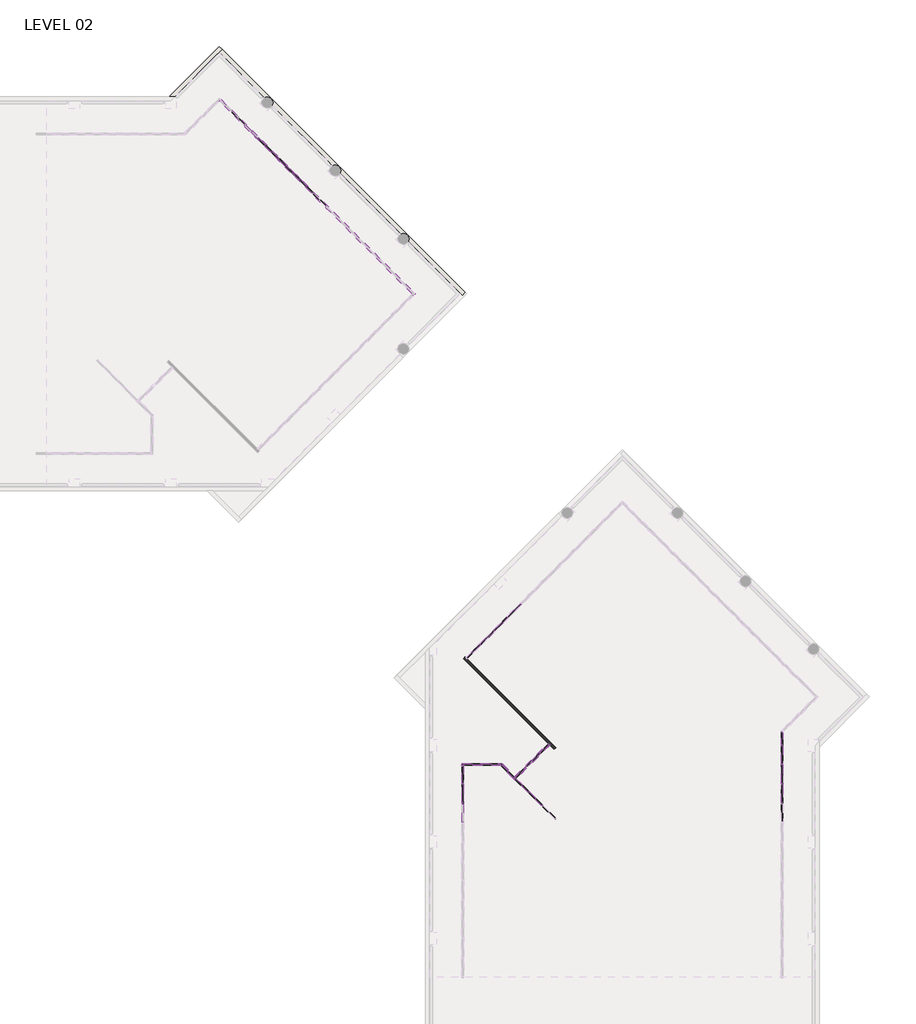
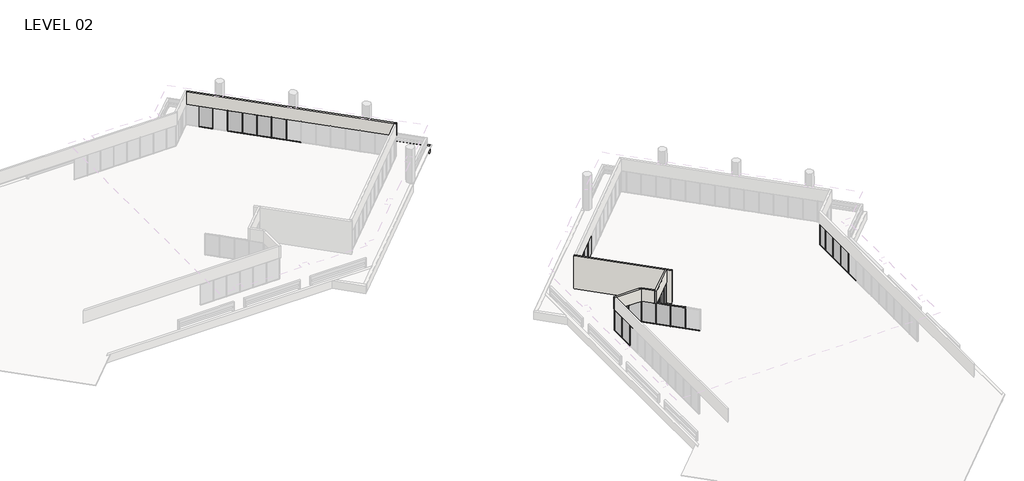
# One storey, part 16 of 19: 79 members, 23 plates, 7 walls, 1 door.
"""IFC4 building model written with IfcOpenShell, lengths in millimetres."""

from ifc_helpers import new_model, si_unit, frame, origin, place, context, project, spatial, polyline, outline, extrude, faceted_brep, transform, mapped, element, save
from components import curtain_wall_dbl_glass_curtain_wall_dbl_glass_ad4eb2cc, member_5247f267, member_e44af9ab, member_c23f844a, member_ed5eb8ce, member_800970d4, member_cca1f9e6, member_ccf7f6e3, member_67d17f7f, member_d5560c68, member_35eb671e, member_74c9df78, plate_67294edd, plate_50b9cd61, plate_ce959b8d, plate_5a14c350, plate_4fb64caf, plate_748a28b9, plate_e3fa2cc7

model = new_model("IFC4")

# Units and contexts
model_context = context("Model", 3, world=origin())
ifc_project = project(units=[si_unit("LENGTHUNIT", "METRE", prefix="MILLI")], contexts=[model_context])

# Site, building, storey
site = spatial("IfcSite", under=ifc_project)
building = spatial("IfcBuilding", under=site)
storey = spatial("IfcBuildingStorey", under=building, Name="LEVEL 02", Elevation=4140.2)

# Door
placement = place(None, origin())
curtain_wall_dbl_glass_curtain_wall_dbl_glass_shape = curtain_wall_dbl_glass_curtain_wall_dbl_glass_ad4eb2cc(model_context)
element("IfcDoor", 1, ObjectType="Curtain Wall Dbl Glass : Curtain Wall Dbl Glass", at=placement, inside=storey, context=model_context, shape_type="MappedRepresentation", body=[
    mapped(curtain_wall_dbl_glass_curtain_wall_dbl_glass_shape, transform((69420.6051367, 67386.6765398, 4140.2), x_axis=(0.7071067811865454, 0.7071067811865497, 0.0), y_axis=(-0.7071067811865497, 0.7071067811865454, 0.0), z_axis=(0.0, 0.0, 1.0))),
])

# Members
member_shape = member_5247f267(model_context)
element("IfcMember", 2, ObjectType="Rectangular Mullion : 2\" x 4.5\" rectangular", at=placement, inside=storey, context=model_context, shape_type="MappedRepresentation", body=[
    mapped(member_shape, transform((46014.06548, 118925.8423275, 4140.2), x_axis=(0.0, 0.0, -1.0), y_axis=(-0.7071067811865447, -0.7071067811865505, 0.0), z_axis=(-0.7071067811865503, 0.7071067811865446, 0.0))),
])
element("IfcMember", 3, ObjectType="Rectangular Mullion : 2\" x 4.5\" rectangular", at=placement, inside=storey, context=model_context, shape_type="MappedRepresentation", body=[
    mapped(member_shape, transform((52449.9132635, 112489.994544, 4140.2), x_axis=(0.0, 0.0, -1.0), y_axis=(-0.7071067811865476, -0.7071067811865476, 0.0), z_axis=(-0.7071067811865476, 0.7071067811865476, 0.0))),
])
member_2_shape = member_e44af9ab(model_context)
element("IfcMember", 4, ObjectType="Rectangular Mullion : 2\" x 4.5\" rectangular", at=placement, inside=storey, context=model_context, shape_type="MappedRepresentation", body=[
    mapped(member_2_shape, transform((48145.3791121, 116794.5286954, 4140.2), x_axis=(0.7071067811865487, -0.7071067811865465, 0.0), y_axis=(-0.7071067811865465, -0.7071067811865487, 0.0), z_axis=(0.0, 0.0, -1.0))),
])
element("IfcMember", 5, ObjectType="Rectangular Mullion : 2\" x 4.5\" rectangular", at=placement, inside=storey, context=model_context, shape_type="MappedRepresentation", body=[
    mapped(member_2_shape, transform((49217.0225219, 115722.8852856, 4140.2), x_axis=(0.7071067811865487, -0.7071067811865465, 0.0), y_axis=(-0.7071067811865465, -0.7071067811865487, 0.0), z_axis=(0.0, 0.0, -1.0))),
])
element("IfcMember", 6, ObjectType="Rectangular Mullion : 2\" x 4.5\" rectangular", at=placement, inside=storey, context=model_context, shape_type="MappedRepresentation", body=[
    mapped(member_2_shape, transform((50288.6659317, 114651.2418758, 4140.2), x_axis=(0.7071067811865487, -0.7071067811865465, 0.0), y_axis=(-0.7071067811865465, -0.7071067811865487, 0.0), z_axis=(0.0, 0.0, -1.0))),
])
element("IfcMember", 7, ObjectType="Rectangular Mullion : 2\" x 4.5\" rectangular", at=placement, inside=storey, context=model_context, shape_type="MappedRepresentation", body=[
    mapped(member_2_shape, transform((51360.3093415, 113579.598466, 4140.2), x_axis=(0.7071067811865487, -0.7071067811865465, 0.0), y_axis=(-0.7071067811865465, -0.7071067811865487, 0.0), z_axis=(0.0, 0.0, -1.0))),
])
element("IfcMember", 8, ObjectType="Rectangular Mullion : 2\" x 4.5\" rectangular", at=placement, inside=storey, context=model_context, shape_type="MappedRepresentation", body=[
    mapped(member_2_shape, transform((52431.9527513, 112507.9550562, 4140.2), x_axis=(0.7071067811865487, -0.7071067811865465, 0.0), y_axis=(-0.7071067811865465, -0.7071067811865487, 0.0), z_axis=(0.0, 0.0, -1.0))),
])
member_3_shape = member_c23f844a(model_context)
element("IfcMember", 9, ObjectType="Rectangular Mullion : 2\" x 4.5\" rectangular", at=placement, inside=storey, context=model_context, shape_type="MappedRepresentation", body=[
    mapped(member_3_shape, transform((48127.4185999, 116812.4892076, 6731.0), x_axis=(0.0, 0.0, 1.0), y_axis=(-0.7071067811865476, -0.7071067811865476, 0.0), z_axis=(0.7071067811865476, -0.7071067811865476, 0.0))),
])
element("IfcMember", 10, ObjectType="Rectangular Mullion : 2\" x 4.5\" rectangular", at=placement, inside=storey, context=model_context, shape_type="MappedRepresentation", body=[
    mapped(member_3_shape, transform((49199.0620097, 115740.8457978, 6731.0), x_axis=(0.0, 0.0, 1.0), y_axis=(-0.7071067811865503, -0.7071067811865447, 0.0), z_axis=(0.7071067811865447, -0.7071067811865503, 0.0))),
])
element("IfcMember", 11, ObjectType="Rectangular Mullion : 2\" x 4.5\" rectangular", at=placement, inside=storey, context=model_context, shape_type="MappedRepresentation", body=[
    mapped(member_3_shape, transform((50270.7054195, 114669.2023881, 6731.0), x_axis=(0.0, 0.0, 1.0), y_axis=(-0.7071067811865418, -0.7071067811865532, 0.0), z_axis=(0.7071067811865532, -0.7071067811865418, 0.0))),
])
element("IfcMember", 12, ObjectType="Rectangular Mullion : 2\" x 4.5\" rectangular", at=placement, inside=storey, context=model_context, shape_type="MappedRepresentation", body=[
    mapped(member_3_shape, transform((51342.3488293, 113597.5589783, 6731.0), x_axis=(0.0, 0.0, 1.0), y_axis=(-0.7071067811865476, -0.7071067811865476, 0.0), z_axis=(0.7071067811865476, -0.7071067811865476, 0.0))),
])
element("IfcMember", 13, ObjectType="Rectangular Mullion : 2\" x 4.5\" rectangular", at=placement, inside=storey, context=model_context, shape_type="MappedRepresentation", body=[
    mapped(member_3_shape, transform((52413.9922391, 112525.9155685, 6731.0), x_axis=(0.0, 0.0, 1.0), y_axis=(-0.7071067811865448, -0.7071067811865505, 0.0), z_axis=(0.7071067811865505, -0.7071067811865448, 0.0))),
])
element("IfcMember", 14, ObjectType="Rectangular Mullion : 2\" x 4.5\" rectangular", at=placement, inside=storey, context=model_context, shape_type="MappedRepresentation", body=[
    mapped(member_3_shape, transform((48163.3396244, 116776.5681832, 4140.2), x_axis=(0.0, 0.0, -1.0), y_axis=(-0.7071067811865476, -0.7071067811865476, 0.0), z_axis=(-0.7071067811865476, 0.7071067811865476, 0.0))),
])
element("IfcMember", 15, ObjectType="Rectangular Mullion : 2\" x 4.5\" rectangular", at=placement, inside=storey, context=model_context, shape_type="MappedRepresentation", body=[
    mapped(member_3_shape, transform((49234.9830342, 115704.9247734, 4140.2), x_axis=(0.0, 0.0, -1.0), y_axis=(-0.7071067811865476, -0.7071067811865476, 0.0), z_axis=(-0.7071067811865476, 0.7071067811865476, 0.0))),
])
element("IfcMember", 16, ObjectType="Rectangular Mullion : 2\" x 4.5\" rectangular", at=placement, inside=storey, context=model_context, shape_type="MappedRepresentation", body=[
    mapped(member_3_shape, transform((50306.626444, 114633.2813636, 4140.2), x_axis=(0.0, 0.0, -1.0), y_axis=(-0.7071067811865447, -0.7071067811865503, 0.0), z_axis=(-0.7071067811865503, 0.7071067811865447, 0.0))),
])
element("IfcMember", 17, ObjectType="Rectangular Mullion : 2\" x 4.5\" rectangular", at=placement, inside=storey, context=model_context, shape_type="MappedRepresentation", body=[
    mapped(member_3_shape, transform((51378.2698538, 113561.6379538, 4140.2), x_axis=(0.0, 0.0, -1.0), y_axis=(-0.7071067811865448, -0.7071067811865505, 0.0), z_axis=(-0.7071067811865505, 0.7071067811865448, 0.0))),
])
member_4_shape = member_ed5eb8ce(model_context)
element("IfcMember", 18, ObjectType="Rectangular Mullion : 2\" x 4.5\" rectangular", at=placement, inside=storey, context=model_context, shape_type="MappedRepresentation", body=[
    mapped(member_4_shape, transform((89445.0847164, 68973.3675885, 6731.0), x_axis=(0.0, 0.0, 1.0), y_axis=(-1.0, 0.0, 0.0), z_axis=(0.0, -1.0, 0.0))),
])
element("IfcMember", 19, ObjectType="Rectangular Mullion : 2\" x 4.5\" rectangular", at=placement, inside=storey, context=model_context, shape_type="MappedRepresentation", body=[
    mapped(member_shape, transform((89445.0847164, 67449.3675885, 6731.0), x_axis=(0.0, 0.0, 1.0), y_axis=(-1.0, 0.0, 0.0), z_axis=(0.0, -1.0, 0.0))),
])
element("IfcMember", 20, ObjectType="Rectangular Mullion : 2\" x 4.5\" rectangular", at=placement, inside=storey, context=model_context, shape_type="MappedRepresentation", body=[
    mapped(member_shape, transform((66746.3763443, 77986.564719, 6731.0), x_axis=(0.0, 0.0, 1.0), y_axis=(-0.7071067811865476, 0.7071067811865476, 0.0), z_axis=(-0.7071067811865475, -0.7071067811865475, 0.0))),
])
element("IfcMember", 21, ObjectType="Rectangular Mullion : 2\" x 4.5\" rectangular", at=placement, inside=storey, context=model_context, shape_type="MappedRepresentation", body=[
    mapped(member_shape, transform((89445.0847164, 65925.3675885, 6731.0), x_axis=(0.0, 0.0, 1.0), y_axis=(-1.0, 0.0, 0.0), z_axis=(0.0, -1.0, 0.0))),
])
element("IfcMember", 22, ObjectType="Rectangular Mullion : 2\" x 4.5\" rectangular", at=placement, inside=storey, context=model_context, shape_type="MappedRepresentation", body=[
    mapped(member_shape, transform((89445.0847164, 64401.3675885, 6731.0), x_axis=(0.0, 0.0, 1.0), y_axis=(-1.0, 0.0, 0.0), z_axis=(0.0, -1.0, 0.0))),
])
element("IfcMember", 23, ObjectType="Rectangular Mullion : 2\" x 4.5\" rectangular", at=placement, inside=storey, context=model_context, shape_type="MappedRepresentation", body=[
    mapped(member_shape, transform((67824.0070788, 79064.1954535, 6731.0), x_axis=(0.0, 0.0, 1.0), y_axis=(-0.7071067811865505, 0.7071067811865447, 0.0), z_axis=(-0.7071067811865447, -0.7071067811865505, 0.0))),
])
element("IfcMember", 24, ObjectType="Rectangular Mullion : 2\" x 4.5\" rectangular", at=placement, inside=storey, context=model_context, shape_type="MappedRepresentation", body=[
    mapped(member_shape, transform((65668.7456097, 76908.9339845, 6731.0), x_axis=(0.0, 0.0, 1.0), y_axis=(-0.7071067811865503, 0.7071067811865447, 0.0), z_axis=(-0.7071067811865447, -0.7071067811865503, 0.0))),
])
element("IfcMember", 25, ObjectType="Rectangular Mullion : 2\" x 4.5\" rectangular", at=placement, inside=storey, context=model_context, shape_type="MappedRepresentation", body=[
    mapped(member_shape, transform((64254.6347164, 65874.5675885, 6731.0), x_axis=(0.0, 0.0, 1.0), y_axis=(1.0, 0.0, 0.0), z_axis=(0.0, 1.0, 0.0))),
])
element("IfcMember", 26, ObjectType="Rectangular Mullion : 2\" x 4.5\" rectangular", at=placement, inside=storey, context=model_context, shape_type="MappedRepresentation", body=[
    mapped(member_shape, transform((64254.6347164, 64350.5675885, 6731.0), x_axis=(0.0, 0.0, 1.0), y_axis=(1.0, 0.0, 0.0), z_axis=(0.0, 1.0, 0.0))),
])
element("IfcMember", 27, ObjectType="Rectangular Mullion : 2\" x 4.5\" rectangular", at=placement, inside=storey, context=model_context, shape_type="MappedRepresentation", body=[
    mapped(member_shape, transform((70517.5664077, 64209.0358972, 6731.0), x_axis=(0.0, 0.0, 1.0), y_axis=(-0.7071067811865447, -0.7071067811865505, 0.0), z_axis=(0.7071067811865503, -0.7071067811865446, 0.0))),
])
element("IfcMember", 28, ObjectType="Rectangular Mullion : 2\" x 4.5\" rectangular", at=placement, inside=storey, context=model_context, shape_type="MappedRepresentation", body=[
    mapped(member_shape, transform((69439.9356732, 65286.6666317, 6731.0), x_axis=(0.0, 0.0, 1.0), y_axis=(-0.7071067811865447, -0.7071067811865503, 0.0), z_axis=(0.7071067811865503, -0.7071067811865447, 0.0))),
])
element("IfcMember", 29, ObjectType="Rectangular Mullion : 2\" x 4.5\" rectangular", at=placement, inside=storey, context=model_context, shape_type="MappedRepresentation", body=[
    mapped(member_4_shape, transform((89445.0847164, 69970.3120859, 4140.2), x_axis=(0.0, 0.0, -1.0), y_axis=(-1.0, 0.0, 0.0), z_axis=(0.0, 1.0, 0.0))),
])
element("IfcMember", 30, ObjectType="Rectangular Mullion : 2\" x 4.5\" rectangular", at=placement, inside=storey, context=model_context, shape_type="MappedRepresentation", body=[
    mapped(member_shape, transform((89445.0847164, 68922.5675885, 4140.2), x_axis=(0.0, 0.0, -1.0), y_axis=(-1.0, 0.0, 0.0), z_axis=(0.0, 1.0, 0.0))),
])
element("IfcMember", 31, ObjectType="Rectangular Mullion : 2\" x 4.5\" rectangular", at=placement, inside=storey, context=model_context, shape_type="MappedRepresentation", body=[
    mapped(member_shape, transform((89445.0847164, 67398.5675885, 4140.2), x_axis=(0.0, 0.0, -1.0), y_axis=(-1.0, 0.0, 0.0), z_axis=(0.0, 1.0, 0.0))),
])
element("IfcMember", 32, ObjectType="Rectangular Mullion : 2\" x 4.5\" rectangular", at=placement, inside=storey, context=model_context, shape_type="MappedRepresentation", body=[
    mapped(member_shape, transform((66710.4553198, 77950.6436945, 4140.2), x_axis=(0.0, 0.0, -1.0), y_axis=(-0.7071067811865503, 0.7071067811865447, 0.0), z_axis=(0.7071067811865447, 0.7071067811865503, 0.0))),
])
element("IfcMember", 33, ObjectType="Rectangular Mullion : 2\" x 4.5\" rectangular", at=placement, inside=storey, context=model_context, shape_type="MappedRepresentation", body=[
    mapped(member_shape, transform((89445.0847164, 65874.5675885, 4140.2), x_axis=(0.0, 0.0, -1.0), y_axis=(-1.0, 0.0, 0.0), z_axis=(0.0, 1.0, 0.0))),
])
element("IfcMember", 34, ObjectType="Rectangular Mullion : 2\" x 4.5\" rectangular", at=placement, inside=storey, context=model_context, shape_type="MappedRepresentation", body=[
    mapped(member_shape, transform((89445.0847164, 64350.5675885, 4140.2), x_axis=(0.0, 0.0, -1.0), y_axis=(-1.0, 0.0, 0.0), z_axis=(0.0, 1.0, 0.0))),
])
element("IfcMember", 35, ObjectType="Rectangular Mullion : 2\" x 4.5\" rectangular", at=placement, inside=storey, context=model_context, shape_type="MappedRepresentation", body=[
    mapped(member_shape, transform((67788.0860543, 79028.274429, 4140.2), x_axis=(0.0, 0.0, -1.0), y_axis=(-0.7071067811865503, 0.7071067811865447, 0.0), z_axis=(0.7071067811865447, 0.7071067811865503, 0.0))),
])
element("IfcMember", 36, ObjectType="Rectangular Mullion : 2\" x 4.5\" rectangular", at=placement, inside=storey, context=model_context, shape_type="MappedRepresentation", body=[
    mapped(member_shape, transform((64254.6347164, 64401.3675885, 4140.2), x_axis=(0.0, 0.0, -1.0), y_axis=(1.0, 0.0, 0.0), z_axis=(0.0, -1.0, 0.0))),
])
element("IfcMember", 37, ObjectType="Rectangular Mullion : 2\" x 4.5\" rectangular", at=placement, inside=storey, context=model_context, shape_type="MappedRepresentation", body=[
    mapped(member_shape, transform((68398.2259632, 66328.3763418, 4140.2), x_axis=(0.0, 0.0, -1.0), y_axis=(-0.7071067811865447, -0.7071067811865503, 0.0), z_axis=(-0.7071067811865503, 0.7071067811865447, 0.0))),
])
element("IfcMember", 38, ObjectType="Rectangular Mullion : 2\" x 4.5\" rectangular", at=placement, inside=storey, context=model_context, shape_type="MappedRepresentation", body=[
    mapped(member_shape, transform((69475.8566977, 65250.7456072, 4140.2), x_axis=(0.0, 0.0, -1.0), y_axis=(-0.7071067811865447, -0.7071067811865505, 0.0), z_axis=(-0.7071067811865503, 0.7071067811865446, 0.0))),
])
element("IfcMember", 39, ObjectType="Rectangular Mullion : 2\" x 4.5\" rectangular", at=placement, inside=storey, context=model_context, shape_type="MappedRepresentation", body=[
    mapped(member_2_shape, transform((89445.0847164, 68947.9675885, 4140.2), x_axis=(0.0, -1.0, 0.0), y_axis=(-1.0, 0.0, 0.0), z_axis=(0.0, 0.0, -1.0))),
])
element("IfcMember", 40, ObjectType="Rectangular Mullion : 2\" x 4.5\" rectangular", at=placement, inside=storey, context=model_context, shape_type="MappedRepresentation", body=[
    mapped(member_2_shape, transform((89445.0847164, 67423.9675885, 4140.2), x_axis=(0.0, -1.0, 0.0), y_axis=(-1.0, 0.0, 0.0), z_axis=(0.0, 0.0, -1.0))),
])
element("IfcMember", 41, ObjectType="Rectangular Mullion : 2\" x 4.5\" rectangular", at=placement, inside=storey, context=model_context, shape_type="MappedRepresentation", body=[
    mapped(member_2_shape, transform((66728.415832, 77968.6042068, 4140.2), x_axis=(-0.7071067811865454, -0.7071067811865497, 0.0), y_axis=(-0.7071067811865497, 0.7071067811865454, 0.0), z_axis=(0.0, 0.0, -1.0))),
])
element("IfcMember", 42, ObjectType="Rectangular Mullion : 2\" x 4.5\" rectangular", at=placement, inside=storey, context=model_context, shape_type="MappedRepresentation", body=[
    mapped(member_2_shape, transform((89445.0847164, 65899.9675885, 4140.2), x_axis=(0.0, -1.0, 0.0), y_axis=(-1.0, 0.0, 0.0), z_axis=(0.0, 0.0, -1.0))),
])
element("IfcMember", 43, ObjectType="Rectangular Mullion : 2\" x 4.5\" rectangular", at=placement, inside=storey, context=model_context, shape_type="MappedRepresentation", body=[
    mapped(member_2_shape, transform((89445.0847164, 64375.9675885, 4140.2), x_axis=(0.0, -1.0, 0.0), y_axis=(-1.0, 0.0, 0.0), z_axis=(0.0, 0.0, -1.0))),
])
element("IfcMember", 44, ObjectType="Rectangular Mullion : 2\" x 4.5\" rectangular", at=placement, inside=storey, context=model_context, shape_type="MappedRepresentation", body=[
    mapped(member_2_shape, transform((67806.0465666, 79046.2349413, 4140.2), x_axis=(-0.7071067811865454, -0.7071067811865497, 0.0), y_axis=(-0.7071067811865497, 0.7071067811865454, 0.0), z_axis=(0.0, 0.0, -1.0))),
])
element("IfcMember", 45, ObjectType="Rectangular Mullion : 2\" x 4.5\" rectangular", at=placement, inside=storey, context=model_context, shape_type="MappedRepresentation", body=[
    mapped(member_2_shape, transform((65650.7850975, 76890.9734722, 4140.2), x_axis=(-0.7071067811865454, -0.7071067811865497, 0.0), y_axis=(-0.7071067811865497, 0.7071067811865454, 0.0), z_axis=(0.0, 0.0, -1.0))),
])
element("IfcMember", 46, ObjectType="Rectangular Mullion : 2\" x 4.5\" rectangular", at=placement, inside=storey, context=model_context, shape_type="MappedRepresentation", body=[
    mapped(member_2_shape, transform((64254.6347164, 65899.9675885, 4140.2), x_axis=(0.0, 1.0, 0.0), y_axis=(1.0, 0.0, 0.0), z_axis=(0.0, 0.0, -1.0))),
])
element("IfcMember", 47, ObjectType="Rectangular Mullion : 2\" x 4.5\" rectangular", at=placement, inside=storey, context=model_context, shape_type="MappedRepresentation", body=[
    mapped(member_2_shape, transform((64254.6347164, 64375.9675885, 4140.2), x_axis=(0.0, 1.0, 0.0), y_axis=(1.0, 0.0, 0.0), z_axis=(0.0, 0.0, -1.0))),
])
element("IfcMember", 48, ObjectType="Rectangular Mullion : 2\" x 4.5\" rectangular", at=placement, inside=storey, context=model_context, shape_type="MappedRepresentation", body=[
    mapped(member_2_shape, transform((65778.6347164, 67423.9675885, 4140.2), x_axis=(1.0, 0.0, 0.0), y_axis=(0.0, -1.0, 0.0), z_axis=(0.0, 0.0, -1.0))),
])
element("IfcMember", 49, ObjectType="Rectangular Mullion : 2\" x 4.5\" rectangular", at=placement, inside=storey, context=model_context, shape_type="MappedRepresentation", body=[
    mapped(member_2_shape, transform((68380.2654509, 66346.336854, 4140.2), x_axis=(0.7071067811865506, -0.7071067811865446, 0.0), y_axis=(-0.7071067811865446, -0.7071067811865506, 0.0), z_axis=(0.0, 0.0, -1.0))),
])
element("IfcMember", 50, ObjectType="Rectangular Mullion : 2\" x 4.5\" rectangular", at=placement, inside=storey, context=model_context, shape_type="MappedRepresentation", body=[
    mapped(member_2_shape, transform((70535.52692, 64191.0753849, 4140.2), x_axis=(0.7071067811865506, -0.7071067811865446, 0.0), y_axis=(-0.7071067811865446, -0.7071067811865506, 0.0), z_axis=(0.0, 0.0, -1.0))),
])
element("IfcMember", 51, ObjectType="Rectangular Mullion : 2\" x 4.5\" rectangular", at=placement, inside=storey, context=model_context, shape_type="MappedRepresentation", body=[
    mapped(member_2_shape, transform((69457.8961855, 65268.7061195, 4140.2), x_axis=(0.7071067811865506, -0.7071067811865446, 0.0), y_axis=(-0.7071067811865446, -0.7071067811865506, 0.0), z_axis=(0.0, 0.0, -1.0))),
])
element("IfcMember", 52, ObjectType="Rectangular Mullion : 2\" x 4.5\" rectangular", at=placement, inside=storey, context=model_context, shape_type="MappedRepresentation", body=[
    mapped(member_2_shape, transform((69097.6075963, 67063.6789994, 4140.2), x_axis=(0.7071067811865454, 0.7071067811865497, 0.0), y_axis=(0.7071067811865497, -0.7071067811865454, 0.0), z_axis=(0.0, 0.0, -1.0))),
])
element("IfcMember", 53, ObjectType="Rectangular Mullion : 2\" x 4.5\" rectangular", at=placement, inside=storey, context=model_context, shape_type="MappedRepresentation", body=[
    mapped(member_2_shape, transform((70390.7644778, 68356.8358808, 4140.2), x_axis=(0.7071067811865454, 0.7071067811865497, 0.0), y_axis=(0.7071067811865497, -0.7071067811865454, 0.0), z_axis=(0.0, 0.0, -1.0))),
])
member_5_shape = member_800970d4(model_context)
element("IfcMember", 54, ObjectType="Rectangular Mullion : 2\" x 4.5\" rectangular", at=placement, inside=storey, context=model_context, shape_type="MappedRepresentation", body=[
    mapped(member_5_shape, transform((64573.154363, 75813.3427377, 4140.2), x_axis=(-0.7071067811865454, -0.7071067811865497, 0.0), y_axis=(-0.7071067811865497, 0.7071067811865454, 0.0), z_axis=(0.0, 0.0, -1.0))),
])
element("IfcMember", 55, ObjectType="Rectangular Mullion : 2\" x 4.5\" rectangular", at=placement, inside=storey, context=model_context, shape_type="MappedRepresentation", body=[
    mapped(member_5_shape, transform((64254.6347164, 67423.9675885, 4140.2), x_axis=(0.0, 1.0, 0.0), y_axis=(1.0, 0.0, 0.0), z_axis=(0.0, 0.0, -1.0))),
])
element("IfcMember", 56, ObjectType="Rectangular Mullion : 2\" x 4.5\" rectangular", at=placement, inside=storey, context=model_context, shape_type="MappedRepresentation", body=[
    mapped(member_5_shape, transform((67302.6347164, 67423.9675885, 4140.2), x_axis=(1.0, 0.0, 0.0), y_axis=(0.0, -1.0, 0.0), z_axis=(0.0, 0.0, -1.0))),
])
element("IfcMember", 57, ObjectType="Rectangular Mullion : 2\" x 4.5\" rectangular", at=placement, inside=storey, context=model_context, shape_type="MappedRepresentation", body=[
    mapped(member_5_shape, transform((71066.5287509, 69032.6001539, 4140.2), x_axis=(0.7071067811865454, 0.7071067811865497, 0.0), y_axis=(0.7071067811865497, -0.7071067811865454, 0.0), z_axis=(0.0, 0.0, -1.0))),
])
element("IfcMember", 58, ObjectType="Rectangular Mullion : 2\" x 4.5\" rectangular", at=placement, inside=storey, context=model_context, shape_type="MappedRepresentation", body=[
    mapped(member_5_shape, transform((89445.0847164, 70021.1120859, 6731.0), x_axis=(0.0, 1.0, 0.0), y_axis=(-1.0, 0.0, 0.0), z_axis=(0.0, 0.0, 1.0))),
])
element("IfcMember", 59, ObjectType="Rectangular Mullion : 2\" x 4.5\" rectangular", at=placement, inside=storey, context=model_context, shape_type="MappedRepresentation", body=[
    mapped(member_5_shape, transform((64254.6347164, 67423.9675885, 6731.0), x_axis=(-1.0, 0.0, 0.0), y_axis=(0.0, -1.0, 0.0), z_axis=(0.0, 0.0, 1.0))),
])
element("IfcMember", 60, ObjectType="Rectangular Mullion : 2\" x 4.5\" rectangular", at=placement, inside=storey, context=model_context, shape_type="MappedRepresentation", body=[
    mapped(member_5_shape, transform((67302.6347164, 67423.9675885, 6731.0), x_axis=(-0.7071067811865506, 0.7071067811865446, 0.0), y_axis=(-0.7071067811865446, -0.7071067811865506, 0.0), z_axis=(0.0, 0.0, 1.0))),
])
element("IfcMember", 61, ObjectType="Rectangular Mullion : 2\" x 4.5\" rectangular", at=placement, inside=storey, context=model_context, shape_type="MappedRepresentation", body=[
    mapped(member_5_shape, transform((68420.6766035, 66386.7480065, 6731.0), x_axis=(-0.7071067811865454, -0.7071067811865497, 0.0), y_axis=(0.7071067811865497, -0.7071067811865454, 0.0), z_axis=(0.0, 0.0, 1.0))),
])
member_6_shape = member_cca1f9e6(model_context)
element("IfcMember", 62, ObjectType="Rectangular Mullion : 2\" x 4.5\" rectangular", at=placement, inside=storey, context=model_context, shape_type="MappedRepresentation", body=[
    mapped(member_6_shape, transform((64609.0753875, 75849.2637622, 6731.0), x_axis=(0.0, 0.0, 1.0), y_axis=(-0.7071067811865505, 0.7071067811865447, 0.0), z_axis=(-0.7071067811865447, -0.7071067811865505, 0.0))),
])
element("IfcMember", 63, ObjectType="Rectangular Mullion : 2\" x 4.5\" rectangular", at=placement, inside=storey, context=model_context, shape_type="MappedRepresentation", body=[
    mapped(member_6_shape, transform((64254.6347164, 67373.1675885, 6731.0), x_axis=(0.0, 0.0, 1.0), y_axis=(1.0, 0.0, 0.0), z_axis=(0.0, 1.0, 0.0))),
])
element("IfcMember", 64, ObjectType="Rectangular Mullion : 2\" x 4.5\" rectangular", at=placement, inside=storey, context=model_context, shape_type="MappedRepresentation", body=[
    mapped(member_6_shape, transform((67251.8347164, 67423.9675885, 6731.0), x_axis=(0.0, 0.0, 1.0), y_axis=(0.0, -1.0, 0.0), z_axis=(1.0, 0.0, 0.0))),
])
element("IfcMember", 65, ObjectType="Rectangular Mullion : 2\" x 4.5\" rectangular", at=placement, inside=storey, context=model_context, shape_type="MappedRepresentation", body=[
    mapped(member_6_shape, transform((65753.2347164, 67423.9675885, 6731.0), x_axis=(0.0, 0.0, 1.0), y_axis=(0.0, -1.0, 0.0), z_axis=(1.0, 0.0, 0.0))),
])
element("IfcMember", 66, ObjectType="Rectangular Mullion : 2\" x 4.5\" rectangular", at=placement, inside=storey, context=model_context, shape_type="MappedRepresentation", body=[
    mapped(member_6_shape, transform((68362.3049387, 66364.2973662, 6731.0), x_axis=(0.0, 0.0, 1.0), y_axis=(-0.7071067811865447, -0.7071067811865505, 0.0), z_axis=(0.7071067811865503, -0.7071067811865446, 0.0))),
])
member_7_shape = member_ccf7f6e3(model_context)
element("IfcMember", 67, ObjectType="Rectangular Mullion : 2\" x 4.5\" rectangular", at=placement, inside=storey, context=model_context, shape_type="MappedRepresentation", body=[
    mapped(member_7_shape, transform((65632.8245853, 76873.01296, 4140.2), x_axis=(0.0, 0.0, -1.0), y_axis=(-0.7071067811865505, 0.7071067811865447, 0.0), z_axis=(0.7071067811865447, 0.7071067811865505, 0.0))),
])
element("IfcMember", 68, ObjectType="Rectangular Mullion : 2\" x 4.5\" rectangular", at=placement, inside=storey, context=model_context, shape_type="MappedRepresentation", body=[
    mapped(member_7_shape, transform((64305.4347164, 67423.9675885, 4140.2), x_axis=(0.0, 0.0, -1.0), y_axis=(0.0, -1.0, 0.0), z_axis=(-1.0, 0.0, 0.0))),
])
element("IfcMember", 69, ObjectType="Rectangular Mullion : 2\" x 4.5\" rectangular", at=placement, inside=storey, context=model_context, shape_type="MappedRepresentation", body=[
    mapped(member_7_shape, transform((64254.6347164, 65925.3675885, 4140.2), x_axis=(0.0, 0.0, -1.0), y_axis=(1.0, 0.0, 0.0), z_axis=(0.0, -1.0, 0.0))),
])
element("IfcMember", 70, ObjectType="Rectangular Mullion : 2\" x 4.5\" rectangular", at=placement, inside=storey, context=model_context, shape_type="MappedRepresentation", body=[
    mapped(member_7_shape, transform((65804.0347164, 67423.9675885, 4140.2), x_axis=(0.0, 0.0, -1.0), y_axis=(0.0, -1.0, 0.0), z_axis=(-1.0, 0.0, 0.0))),
])
element("IfcMember", 71, ObjectType="Rectangular Mullion : 2\" x 4.5\" rectangular", at=placement, inside=storey, context=model_context, shape_type="MappedRepresentation", body=[
    mapped(member_7_shape, transform((67338.5557409, 67388.046564, 4140.2), x_axis=(0.0, 0.0, -1.0), y_axis=(-0.7071067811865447, -0.7071067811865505, 0.0), z_axis=(-0.7071067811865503, 0.7071067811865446, 0.0))),
])
element("IfcMember", 72, ObjectType="Rectangular Mullion : 2\" x 4.5\" rectangular", at=placement, inside=storey, context=model_context, shape_type="MappedRepresentation", body=[
    mapped(member_7_shape, transform((70553.4874322, 64173.1148727, 4140.2), x_axis=(0.0, 0.0, -1.0), y_axis=(-0.7071067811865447, -0.7071067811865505, 0.0), z_axis=(-0.7071067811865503, 0.7071067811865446, 0.0))),
])
member_8_shape = member_67d17f7f(model_context)
element("IfcMember", 73, ObjectType="Rectangular Mullion : 2\" x 4.5\" rectangular", at=placement, inside=storey, context=model_context, shape_type="MappedRepresentation", body=[
    mapped(member_8_shape, transform((71030.6077264, 68996.6791294, 6731.0), x_axis=(0.0, 0.0, 1.0), y_axis=(0.7071067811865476, -0.7071067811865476, 0.0), z_axis=(0.7071067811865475, 0.7071067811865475, 0.0))),
])
member_9_shape = member_d5560c68(model_context)
element("IfcMember", 74, ObjectType="Rectangular Mullion : 2\" x 4.5\" rectangular", at=placement, inside=storey, context=model_context, shape_type="MappedRepresentation", body=[
    mapped(member_9_shape, transform((68456.597628, 66422.669031, 4140.2), x_axis=(0.0, 0.0, -1.0), y_axis=(0.707106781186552, -0.707106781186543, 0.0), z_axis=(-0.707106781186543, -0.707106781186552, 0.0))),
])
element("IfcMember", 75, ObjectType="Rectangular Mullion : 2\" x 4.5\" rectangular", at=placement, inside=storey, context=model_context, shape_type="MappedRepresentation", body=[
    mapped(member_9_shape, transform((69079.6470841, 67045.7184871, 6731.0), x_axis=(0.0, 0.0, 1.0), y_axis=(0.707106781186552, -0.707106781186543, 0.0), z_axis=(0.707106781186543, 0.707106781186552, 0.0))),
])
element("IfcMember", 76, ObjectType="Rectangular Mullion : 2\" x 4.5\" rectangular", at=placement, inside=storey, context=model_context, shape_type="MappedRepresentation", body=[
    mapped(member_8_shape, transform((70408.72499, 68374.7963931, 4140.2), x_axis=(0.0, 0.0, -1.0), y_axis=(0.7071067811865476, -0.7071067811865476, 0.0), z_axis=(-0.7071067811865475, -0.7071067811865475, 0.0))),
])
element("IfcMember", 77, ObjectType="Rectangular Mullion : 2\" x 4.5\" rectangular", at=placement, inside=storey, context=model_context, shape_type="MappedRepresentation", body=[
    mapped(member_2_shape, transform((69743.6026772, 67709.6740802, 4140.2), x_axis=(0.7071067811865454, 0.7071067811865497, 0.0), y_axis=(0.7071067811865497, -0.7071067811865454, 0.0), z_axis=(0.0, 0.0, -1.0))),
])
member_10_shape = member_35eb671e(model_context)
element("IfcMember", 78, ObjectType="Rectangular Mullion : 2\" x 4.5\" rectangular", at=placement, inside=storey, context=model_context, shape_type="MappedRepresentation", body=[
    mapped(member_10_shape, transform((70372.8039655, 68338.8753686, 6731.0), x_axis=(0.0, 0.0, 1.0), y_axis=(0.7071067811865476, -0.7071067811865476, 0.0), z_axis=(0.7071067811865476, 0.7071067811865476, 0.0))),
])
member_11_shape = member_74c9df78(model_context)
element("IfcMember", 79, ObjectType="Rectangular Mullion : 2\" x 4.5\" rectangular", at=placement, inside=storey, context=model_context, shape_type="MappedRepresentation", body=[
    mapped(member_11_shape, transform((69725.6421649, 67691.713568, 6731.0), x_axis=(0.0, 0.0, 1.0), y_axis=(0.7071067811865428, -0.7071067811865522, 0.0), z_axis=(0.7071067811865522, 0.7071067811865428, 0.0))),
])
element("IfcMember", 80, ObjectType="Rectangular Mullion : 2\" x 4.5\" rectangular", at=placement, inside=storey, context=model_context, shape_type="MappedRepresentation", body=[
    mapped(member_10_shape, transform((69761.5631894, 67727.6345925, 4140.2), x_axis=(0.0, 0.0, -1.0), y_axis=(0.7071067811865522, -0.7071067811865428, 0.0), z_axis=(-0.7071067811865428, -0.7071067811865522, 0.0))),
])

# Plates
plate_shape = plate_67294edd(model_context)
element("IfcPlate", 81, ObjectType="System Panel : 1/4\" Glass", at=placement, inside=storey, context=model_context, shape_type="MappedRepresentation", body=[
    mapped(plate_shape, transform((46534.9203351, 118404.9874725, 4191.0), x_axis=(0.7071067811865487, -0.7071067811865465, 0.0), y_axis=(0.7071067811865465, 0.7071067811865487, 0.0), z_axis=(0.0, 0.0, 1.0))),
])
plate_2_shape = plate_50b9cd61(model_context)
element("IfcPlate", 82, ObjectType="System Panel : 1/4\" Glass", at=placement, inside=storey, context=model_context, shape_type="MappedRepresentation", body=[
    mapped(plate_2_shape, transform((48681.200817, 116258.7069905, 4191.0), x_axis=(0.7071067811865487, -0.7071067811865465, 0.0), y_axis=(0.7071067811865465, 0.7071067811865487, 0.0), z_axis=(0.0, 0.0, 1.0))),
])
element("IfcPlate", 83, ObjectType="System Panel : 1/4\" Glass", at=placement, inside=storey, context=model_context, shape_type="MappedRepresentation", body=[
    mapped(plate_2_shape, transform((49752.8442268, 115187.0635807, 4191.0), x_axis=(0.7071067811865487, -0.7071067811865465, 0.0), y_axis=(0.7071067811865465, 0.7071067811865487, 0.0), z_axis=(0.0, 0.0, 1.0))),
])
element("IfcPlate", 84, ObjectType="System Panel : 1/4\" Glass", at=placement, inside=storey, context=model_context, shape_type="MappedRepresentation", body=[
    mapped(plate_2_shape, transform((50824.4876366, 114115.4201709, 4191.0), x_axis=(0.7071067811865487, -0.7071067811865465, 0.0), y_axis=(0.7071067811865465, 0.7071067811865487, 0.0), z_axis=(0.0, 0.0, 1.0))),
])
element("IfcPlate", 85, ObjectType="System Panel : 1/4\" Glass", at=placement, inside=storey, context=model_context, shape_type="MappedRepresentation", body=[
    mapped(plate_2_shape, transform((51896.1310464, 113043.7767611, 4191.0), x_axis=(0.7071067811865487, -0.7071067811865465, 0.0), y_axis=(0.7071067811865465, 0.7071067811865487, 0.0), z_axis=(0.0, 0.0, 1.0))),
])
plate_3_shape = plate_ce959b8d(model_context)
element("IfcPlate", 86, ObjectType="System Panel : 1/4\" Glass", at=placement, inside=storey, context=model_context, shape_type="MappedRepresentation", body=[
    mapped(plate_3_shape, transform((89445.0847164, 69471.8398372, 4191.0), x_axis=(0.0, -1.0, 0.0), y_axis=(1.0, 0.0, 0.0), z_axis=(0.0, 0.0, 1.0))),
])
element("IfcPlate", 87, ObjectType="System Panel : 1/4\" Glass", at=placement, inside=storey, context=model_context, shape_type="MappedRepresentation", body=[
    mapped(plate_shape, transform((89445.0847164, 68185.9675885, 4191.0), x_axis=(0.0, -1.0, 0.0), y_axis=(1.0, 0.0, 0.0), z_axis=(0.0, 0.0, 1.0))),
])
element("IfcPlate", 88, ObjectType="System Panel : 1/4\" Glass", at=placement, inside=storey, context=model_context, shape_type="MappedRepresentation", body=[
    mapped(plate_shape, transform((89445.0847164, 66661.9675885, 4191.0), x_axis=(0.0, -1.0, 0.0), y_axis=(1.0, 0.0, 0.0), z_axis=(0.0, 0.0, 1.0))),
])
element("IfcPlate", 89, ObjectType="System Panel : 1/4\" Glass", at=placement, inside=storey, context=model_context, shape_type="MappedRepresentation", body=[
    mapped(plate_shape, transform((68344.8619338, 79585.0503085, 4191.0), x_axis=(-0.7071067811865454, -0.7071067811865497, 0.0), y_axis=(0.7071067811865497, -0.7071067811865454, 0.0), z_axis=(0.0, 0.0, 1.0))),
])
element("IfcPlate", 90, ObjectType="System Panel : 1/4\" Glass", at=placement, inside=storey, context=model_context, shape_type="MappedRepresentation", body=[
    mapped(plate_shape, transform((66189.6004648, 77429.7888395, 4191.0), x_axis=(-0.7071067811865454, -0.7071067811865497, 0.0), y_axis=(0.7071067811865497, -0.7071067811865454, 0.0), z_axis=(0.0, 0.0, 1.0))),
])
element("IfcPlate", 91, ObjectType="System Panel : 1/4\" Glass", at=placement, inside=storey, context=model_context, shape_type="MappedRepresentation", body=[
    mapped(plate_shape, transform((89445.0847164, 65137.9675885, 4191.0), x_axis=(0.0, -1.0, 0.0), y_axis=(1.0, 0.0, 0.0), z_axis=(0.0, 0.0, 1.0))),
])
element("IfcPlate", 92, ObjectType="System Panel : 1/4\" Glass", at=placement, inside=storey, context=model_context, shape_type="MappedRepresentation", body=[
    mapped(plate_shape, transform((67267.2311993, 78507.419574, 4191.0), x_axis=(-0.7071067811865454, -0.7071067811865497, 0.0), y_axis=(0.7071067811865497, -0.7071067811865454, 0.0), z_axis=(0.0, 0.0, 1.0))),
])
element("IfcPlate", 93, ObjectType="System Panel : 1/4\" Glass", at=placement, inside=storey, context=model_context, shape_type="MappedRepresentation", body=[
    mapped(plate_shape, transform((64254.6347164, 65137.9675885, 4191.0), x_axis=(0.0, 1.0, 0.0), y_axis=(-1.0, 0.0, 0.0), z_axis=(0.0, 0.0, 1.0))),
])
element("IfcPlate", 94, ObjectType="System Panel : 1/4\" Glass", at=placement, inside=storey, context=model_context, shape_type="MappedRepresentation", body=[
    mapped(plate_shape, transform((68919.0808182, 65807.5214867, 4191.0), x_axis=(0.7071067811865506, -0.7071067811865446, 0.0), y_axis=(0.7071067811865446, 0.7071067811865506, 0.0), z_axis=(0.0, 0.0, 1.0))),
])
element("IfcPlate", 95, ObjectType="System Panel : 1/4\" Glass", at=placement, inside=storey, context=model_context, shape_type="MappedRepresentation", body=[
    mapped(plate_shape, transform((69996.7115527, 64729.8907522, 4191.0), x_axis=(0.7071067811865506, -0.7071067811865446, 0.0), y_axis=(0.7071067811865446, 0.7071067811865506, 0.0), z_axis=(0.0, 0.0, 1.0))),
])
plate_4_shape = plate_5a14c350(model_context)
element("IfcPlate", 96, ObjectType="System Panel : 1/4\" Glass", at=placement, inside=storey, context=model_context, shape_type="MappedRepresentation", body=[
    mapped(plate_4_shape, transform((65120.9499864, 76361.1383611, 4191.0), x_axis=(-0.7071067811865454, -0.7071067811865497, 0.0), y_axis=(0.7071067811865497, -0.7071067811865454, 0.0), z_axis=(0.0, 0.0, 1.0))),
])
element("IfcPlate", 97, ObjectType="System Panel : 1/4\" Glass", at=placement, inside=storey, context=model_context, shape_type="MappedRepresentation", body=[
    mapped(plate_4_shape, transform((65029.3347164, 67423.9675885, 4191.0), x_axis=(1.0, 0.0, 0.0), y_axis=(0.0, 1.0, 0.0), z_axis=(0.0, 0.0, 1.0))),
])
element("IfcPlate", 98, ObjectType="System Panel : 1/4\" Glass", at=placement, inside=storey, context=model_context, shape_type="MappedRepresentation", body=[
    mapped(plate_4_shape, transform((66527.9347164, 67423.9675885, 4191.0), x_axis=(1.0, 0.0, 0.0), y_axis=(0.0, 1.0, 0.0), z_axis=(0.0, 0.0, 1.0))),
])
element("IfcPlate", 99, ObjectType="System Panel : 1/4\" Glass", at=placement, inside=storey, context=model_context, shape_type="MappedRepresentation", body=[
    mapped(plate_4_shape, transform((64254.6347164, 66649.2675885, 4191.0), x_axis=(0.0, 1.0, 0.0), y_axis=(-1.0, 0.0, 0.0), z_axis=(0.0, 0.0, 1.0))),
])
element("IfcPlate", 100, ObjectType="System Panel : 1/4\" Glass", at=placement, inside=storey, context=model_context, shape_type="MappedRepresentation", body=[
    mapped(plate_4_shape, transform((67850.4303398, 66876.1719651, 4191.0), x_axis=(0.7071067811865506, -0.7071067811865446, 0.0), y_axis=(0.7071067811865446, 0.7071067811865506, 0.0), z_axis=(0.0, 0.0, 1.0))),
])
plate_5_shape = plate_4fb64caf(model_context)
element("IfcPlate", 101, ObjectType="System Panel : 1/4\" Glass", at=placement, inside=storey, context=model_context, shape_type="MappedRepresentation", body=[
    mapped(plate_5_shape, transform((68768.122356, 66734.1937591, 4191.0), x_axis=(0.7071067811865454, 0.7071067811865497, 0.0), y_axis=(-0.7071067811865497, 0.7071067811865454, 0.0), z_axis=(0.0, 0.0, 1.0))),
])
plate_6_shape = plate_748a28b9(model_context)
element("IfcPlate", 102, ObjectType="System Panel : 1/4\" Glass", at=placement, inside=storey, context=model_context, shape_type="MappedRepresentation", body=[
    mapped(plate_6_shape, transform((70719.6663582, 68685.7377613, 4191.0), x_axis=(0.7071067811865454, 0.7071067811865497, 0.0), y_axis=(-0.7071067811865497, 0.7071067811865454, 0.0), z_axis=(0.0, 0.0, 1.0))),
])
plate_7_shape = plate_e3fa2cc7(model_context)
element("IfcPlate", 103, ObjectType="System Panel : 1/4\" Glass", at=placement, inside=storey, context=model_context, shape_type="MappedRepresentation", body=[
    mapped(plate_7_shape, transform((70067.1835775, 68033.2549805, 4191.0), x_axis=(0.7071067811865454, 0.7071067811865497, 0.0), y_axis=(-0.7071067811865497, 0.7071067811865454, 0.0), z_axis=(0.0, 0.0, 1.0))),
])

# Walls
element("IfcWall", 104, ObjectType="01-CONCRETE-12", at=placement, inside=storey, context=model_context, shape_type="Brep", body=[
    faceted_brep([(41539.707951, 120083.5023049, 3225.8), (45065.95, 123609.7443539, 3225.8), (45281.4761469, 123825.2705008, 3225.8), (45281.4761469, 123825.2705008, 4140.2), (45065.95, 123609.7443539, 4140.2), (41539.707951, 120083.5023049, 4140.2), (41108.6556572, 120083.5023049, 3225.8), (41108.6556572, 120083.5023049, 4140.2), (45065.95, 124040.7966477, 4140.2), (45065.95, 124040.7966477, 3225.8)], [[[0, 1, 2, 3, 4, 5]], [[6, 7, 8, 9]], [[2, 1, 0, 6, 9]], [[5, 4, 3, 8, 7]], [[0, 5, 7, 6]], [[3, 2, 9, 8]]]),
])
element("IfcWall", 105, ObjectType="01-CONCRETE-12", at=placement, inside=storey, context=model_context, shape_type="SweptSolid", body=[
    extrude(outline(polyline([(64241.5801224, 104434.1142315), (45065.95, 123609.7443539), (45281.4761469, 123825.2705008), (64457.1062693, 104649.6403784), (64241.5801224, 104434.1142315)])), frame((0.0, 0.0, 3225.8), z_axis=(0.0, 0.0, 1.0), x_axis=(1.0, 0.0, 0.0)), (0.0, 0.0, 1.0), 914.4),
])
element("IfcWall", 106, ObjectType="8\" Existing Wall", at=placement, inside=storey, context=model_context, shape_type="SweptSolid", body=[
    extrude(outline(polyline([(71470.6533652, 68628.4755396), (64317.2170635, 75781.9118413), (64460.9011615, 75925.5959392), (71614.3374632, 68772.1596375), (71470.6533652, 68628.4755396)])), frame((0.0, 0.0, 4140.2), z_axis=(0.0, 0.0, 1.0), x_axis=(1.0, 0.0, 0.0)), (0.0, 0.0, 1.0), 4013.2),
])
element("IfcWall", 107, ObjectType="8\" Existing Wall", at=placement, inside=storey, context=model_context, shape_type="Brep", body=[
    faceted_brep([(70994.6867019, 69104.4422029, 6731.0), (68380.2654509, 66490.0209519, 6731.0), (68236.581353, 66346.336854, 6731.0), (68236.581353, 66346.336854, 8229.6), (68380.2654509, 66490.0209519, 8229.6), (70994.6867019, 69104.4422029, 8229.6), (71138.3707998, 68960.758105, 6731.0), (71138.3707998, 68960.758105, 8229.6), (68380.2654509, 66202.6527561, 8229.6), (68380.2654509, 66202.6527561, 6731.0)], [[[0, 1, 2, 3, 4, 5]], [[6, 7, 8, 9]], [[2, 1, 0, 6, 9]], [[5, 4, 3, 8, 7]], [[0, 5, 7, 6]], [[3, 2, 9, 8]]]),
])
element("IfcWall", 108, ObjectType="8\" Existing Wall", at=placement, inside=storey, context=model_context, shape_type="Brep", body=[
    faceted_brep([(68380.2654509, 66490.0209519, 6731.0), (67344.7188143, 67525.5675885, 6731.0), (67344.7188143, 67525.5675885, 8229.6), (68380.2654509, 66490.0209519, 8229.6), (68236.581353, 66346.336854, 6731.0), (68236.581353, 66346.336854, 8229.6), (67260.5506185, 67322.3675885, 8229.6), (67057.3506185, 67525.5675885, 8229.6), (67057.3506185, 67525.5675885, 6731.0), (67260.5506185, 67322.3675885, 6731.0)], [[[0, 1, 2, 3]], [[4, 5, 6, 7, 8, 9]], [[1, 0, 4, 9, 8]], [[3, 2, 7, 6, 5]], [[0, 3, 5, 4]], [[2, 1, 8, 7]]]),
])
element("IfcWall", 109, ObjectType="8\" Existing Wall", at=placement, inside=storey, context=model_context, shape_type="Brep", body=[
    faceted_brep([(67057.3506185, 67525.5675885, 6731.0), (64153.0347164, 67525.5675885, 6731.0), (64153.0347164, 67525.5675885, 8229.6), (67057.3506185, 67525.5675885, 8229.6), (67260.5506185, 67322.3675885, 6731.0), (67260.5506185, 67322.3675885, 8229.6), (64356.2347164, 67322.3675885, 8229.6), (64153.0347164, 67322.3675885, 8229.6), (64153.0347164, 67322.3675885, 6731.0), (64356.2347164, 67322.3675885, 6731.0)], [[[0, 1, 2, 3]], [[4, 5, 6, 7, 8, 9]], [[1, 0, 4, 9, 8]], [[3, 2, 7, 6, 5]], [[0, 3, 5, 4]], [[2, 1, 8, 7]]]),
])
element("IfcWall", 110, ObjectType="8\" Existing Wall", at=placement, inside=storey, context=model_context, shape_type="Brep", body=[
    faceted_brep([(45065.95, 119730.2737096, 6731.0), (60254.3464047, 104541.8773049, 6731.0), (60398.0305026, 104398.193207, 6731.0), (60398.0305026, 104398.193207, 8229.6), (60254.3464047, 104541.8773049, 8229.6), (45065.95, 119730.2737096, 8229.6), (45209.6340979, 119873.9578075, 6731.0), (45209.6340979, 119873.9578075, 8229.6), (60541.7146005, 104541.8773049, 8229.6), (60541.7146005, 104541.8773049, 6731.0)], [[[0, 1, 2, 3, 4, 5]], [[6, 7, 8, 9]], [[2, 1, 0, 6, 9]], [[5, 4, 3, 8, 7]], [[0, 5, 7, 6]], [[3, 2, 9, 8]]]),
])

save(model, "model.ifc")
